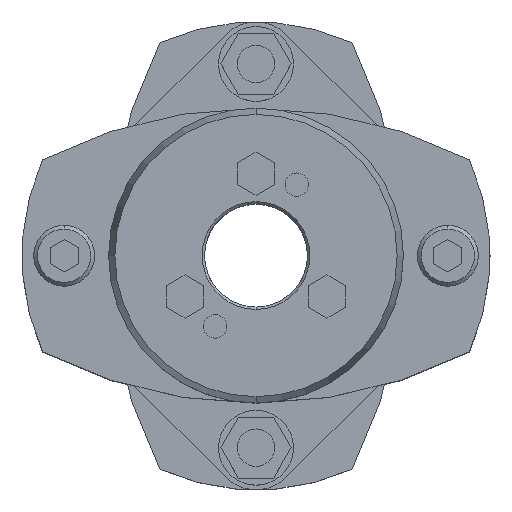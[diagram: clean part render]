
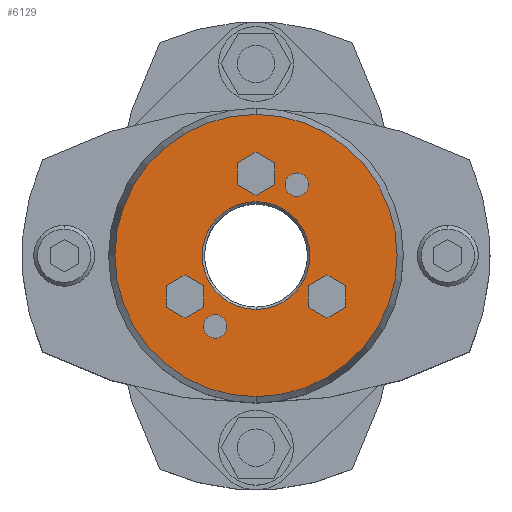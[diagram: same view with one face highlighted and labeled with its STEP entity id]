
A CAD part, top view. The second image highlights one B-rep face of the part: STEP entity #6129.
In plain terms, the highlighted planar face has unit normal (0, 0, 1).
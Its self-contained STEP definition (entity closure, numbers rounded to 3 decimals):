
#1677=CARTESIAN_POINT('',(0.,11.5,55.5));
#1678=VERTEX_POINT('',#1677);
#1694=CARTESIAN_POINT('',(0.,-11.5,55.5));
#1695=VERTEX_POINT('',#1694);
#1702=CARTESIAN_POINT('',(0.,0.,55.5));
#1703=DIRECTION('',(0.0,0.0,1.0));
#1704=DIRECTION('',(0.0,1.0,0.0));
#1705=AXIS2_PLACEMENT_3D('',#1702,#1703,#1704);
#1706=CIRCLE('',#1705,11.5);
#1707=EDGE_CURVE('',#1695,#1678,#1706,.T.);
#1865=CARTESIAN_POINT('',(0.,-30.16,55.5));
#1866=VERTEX_POINT('',#1865);
#1873=CARTESIAN_POINT('',(0.,30.16,55.5));
#1874=VERTEX_POINT('',#1873);
#1875=CARTESIAN_POINT('',(0.,0.,55.5));
#1876=DIRECTION('',(0.0,0.0,-1.0));
#1877=DIRECTION('',(0.0,-1.0,0.0));
#1878=AXIS2_PLACEMENT_3D('',#1875,#1876,#1877);
#1879=CIRCLE('',#1878,30.16);
#1880=EDGE_CURVE('',#1866,#1874,#1879,.T.);
#1975=CARTESIAN_POINT('',(8.75,17.655,55.5));
#1976=VERTEX_POINT('',#1975);
#1992=CARTESIAN_POINT('',(8.75,12.655,55.5));
#1993=VERTEX_POINT('',#1992);
#2000=CARTESIAN_POINT('',(8.75,15.155,55.5));
#2001=DIRECTION('',(0.0,0.0,-1.0));
#2002=DIRECTION('',(0.0,1.0,0.0));
#2003=AXIS2_PLACEMENT_3D('',#2000,#2001,#2002);
#2004=CIRCLE('',#2003,2.5);
#2005=EDGE_CURVE('',#1976,#1993,#2004,.T.);
#2017=CARTESIAN_POINT('',(-8.75,-12.655,55.5));
#2018=VERTEX_POINT('',#2017);
#2034=CARTESIAN_POINT('',(-8.75,-17.655,55.5));
#2035=VERTEX_POINT('',#2034);
#2042=CARTESIAN_POINT('',(-8.75,-15.155,55.5));
#2043=DIRECTION('',(0.0,0.0,-1.0));
#2044=DIRECTION('',(0.0,1.0,0.0));
#2045=AXIS2_PLACEMENT_3D('',#2042,#2043,#2044);
#2046=CIRCLE('',#2045,2.5);
#2047=EDGE_CURVE('',#2018,#2035,#2046,.T.);
#5156=CARTESIAN_POINT('',(-8.75,-15.155,55.5));
#5157=DIRECTION('',(0.0,0.0,-1.0));
#5158=DIRECTION('',(0.0,1.0,0.0));
#5159=AXIS2_PLACEMENT_3D('',#5156,#5157,#5158);
#5160=CIRCLE('',#5159,2.5);
#5161=EDGE_CURVE('',#2035,#2018,#5160,.T.);
#5190=CARTESIAN_POINT('',(8.75,15.155,55.5));
#5191=DIRECTION('',(0.0,0.0,-1.0));
#5192=DIRECTION('',(0.0,1.0,0.0));
#5193=AXIS2_PLACEMENT_3D('',#5190,#5191,#5192);
#5194=CIRCLE('',#5193,2.5);
#5195=EDGE_CURVE('',#1993,#1976,#5194,.T.);
#5233=CARTESIAN_POINT('',(-15.155,-4.131,55.5));
#5234=VERTEX_POINT('',#5233);
#5241=CARTESIAN_POINT('',(-19.155,-6.441,55.5));
#5242=VERTEX_POINT('',#5241);
#5243=CARTESIAN_POINT('',(-19.155,-6.441,55.5));
#5244=DIRECTION('',(0.866,0.5,0.0));
#5245=VECTOR('',#5244,4.619);
#5246=LINE('',#5243,#5245);
#5247=EDGE_CURVE('',#5242,#5234,#5246,.T.);
#5271=CARTESIAN_POINT('',(-11.155,-6.441,55.5));
#5272=VERTEX_POINT('',#5271);
#5279=CARTESIAN_POINT('',(-15.155,-4.131,55.5));
#5280=DIRECTION('',(0.866,-0.5,0.0));
#5281=VECTOR('',#5280,4.619);
#5282=LINE('',#5279,#5281);
#5283=EDGE_CURVE('',#5234,#5272,#5282,.T.);
#5302=CARTESIAN_POINT('',(-11.155,-11.059,55.5));
#5303=VERTEX_POINT('',#5302);
#5310=CARTESIAN_POINT('',(-11.155,-6.441,55.5));
#5311=DIRECTION('',(0.0,-1.0,0.0));
#5312=VECTOR('',#5311,4.619);
#5313=LINE('',#5310,#5312);
#5314=EDGE_CURVE('',#5272,#5303,#5313,.T.);
#5333=CARTESIAN_POINT('',(-15.155,-13.369,55.5));
#5334=VERTEX_POINT('',#5333);
#5341=CARTESIAN_POINT('',(-11.155,-11.059,55.5));
#5342=DIRECTION('',(-0.866,-0.5,0.0));
#5343=VECTOR('',#5342,4.619);
#5344=LINE('',#5341,#5343);
#5345=EDGE_CURVE('',#5303,#5334,#5344,.T.);
#5364=CARTESIAN_POINT('',(-19.155,-11.059,55.5));
#5365=VERTEX_POINT('',#5364);
#5372=CARTESIAN_POINT('',(-15.155,-13.369,55.5));
#5373=DIRECTION('',(-0.866,0.5,0.0));
#5374=VECTOR('',#5373,4.619);
#5375=LINE('',#5372,#5374);
#5376=EDGE_CURVE('',#5334,#5365,#5375,.T.);
#5394=CARTESIAN_POINT('',(-19.155,-11.059,55.5));
#5395=DIRECTION('',(0.0,1.0,0.0));
#5396=VECTOR('',#5395,4.619);
#5397=LINE('',#5394,#5396);
#5398=EDGE_CURVE('',#5365,#5242,#5397,.T.);
#5433=CARTESIAN_POINT('',(0.,22.119,55.5));
#5434=VERTEX_POINT('',#5433);
#5441=CARTESIAN_POINT('',(-4.,19.809,55.5));
#5442=VERTEX_POINT('',#5441);
#5443=CARTESIAN_POINT('',(-4.,19.809,55.5));
#5444=DIRECTION('',(0.866,0.5,0.0));
#5445=VECTOR('',#5444,4.619);
#5446=LINE('',#5443,#5445);
#5447=EDGE_CURVE('',#5442,#5434,#5446,.T.);
#5471=CARTESIAN_POINT('',(4.,19.809,55.5));
#5472=VERTEX_POINT('',#5471);
#5479=CARTESIAN_POINT('',(0.,22.119,55.5));
#5480=DIRECTION('',(0.866,-0.5,0.0));
#5481=VECTOR('',#5480,4.619);
#5482=LINE('',#5479,#5481);
#5483=EDGE_CURVE('',#5434,#5472,#5482,.T.);
#5502=CARTESIAN_POINT('',(4.,15.191,55.5));
#5503=VERTEX_POINT('',#5502);
#5510=CARTESIAN_POINT('',(4.,19.809,55.5));
#5511=DIRECTION('',(0.0,-1.0,0.0));
#5512=VECTOR('',#5511,4.619);
#5513=LINE('',#5510,#5512);
#5514=EDGE_CURVE('',#5472,#5503,#5513,.T.);
#5533=CARTESIAN_POINT('',(0.,12.881,55.5));
#5534=VERTEX_POINT('',#5533);
#5541=CARTESIAN_POINT('',(4.,15.191,55.5));
#5542=DIRECTION('',(-0.866,-0.5,0.0));
#5543=VECTOR('',#5542,4.619);
#5544=LINE('',#5541,#5543);
#5545=EDGE_CURVE('',#5503,#5534,#5544,.T.);
#5564=CARTESIAN_POINT('',(-4.,15.191,55.5));
#5565=VERTEX_POINT('',#5564);
#5572=CARTESIAN_POINT('',(0.,12.881,55.5));
#5573=DIRECTION('',(-0.866,0.5,0.0));
#5574=VECTOR('',#5573,4.619);
#5575=LINE('',#5572,#5574);
#5576=EDGE_CURVE('',#5534,#5565,#5575,.T.);
#5594=CARTESIAN_POINT('',(-4.,15.191,55.5));
#5595=DIRECTION('',(0.0,1.0,0.0));
#5596=VECTOR('',#5595,4.619);
#5597=LINE('',#5594,#5596);
#5598=EDGE_CURVE('',#5565,#5442,#5597,.T.);
#5633=CARTESIAN_POINT('',(15.155,-4.131,55.5));
#5634=VERTEX_POINT('',#5633);
#5641=CARTESIAN_POINT('',(11.155,-6.441,55.5));
#5642=VERTEX_POINT('',#5641);
#5643=CARTESIAN_POINT('',(11.155,-6.441,55.5));
#5644=DIRECTION('',(0.866,0.5,0.0));
#5645=VECTOR('',#5644,4.619);
#5646=LINE('',#5643,#5645);
#5647=EDGE_CURVE('',#5642,#5634,#5646,.T.);
#5671=CARTESIAN_POINT('',(19.155,-6.441,55.5));
#5672=VERTEX_POINT('',#5671);
#5679=CARTESIAN_POINT('',(15.155,-4.131,55.5));
#5680=DIRECTION('',(0.866,-0.5,0.0));
#5681=VECTOR('',#5680,4.619);
#5682=LINE('',#5679,#5681);
#5683=EDGE_CURVE('',#5634,#5672,#5682,.T.);
#5702=CARTESIAN_POINT('',(19.155,-11.059,55.5));
#5703=VERTEX_POINT('',#5702);
#5710=CARTESIAN_POINT('',(19.155,-6.441,55.5));
#5711=DIRECTION('',(0.0,-1.0,0.0));
#5712=VECTOR('',#5711,4.619);
#5713=LINE('',#5710,#5712);
#5714=EDGE_CURVE('',#5672,#5703,#5713,.T.);
#5733=CARTESIAN_POINT('',(15.155,-13.369,55.5));
#5734=VERTEX_POINT('',#5733);
#5741=CARTESIAN_POINT('',(19.155,-11.059,55.5));
#5742=DIRECTION('',(-0.866,-0.5,0.0));
#5743=VECTOR('',#5742,4.619);
#5744=LINE('',#5741,#5743);
#5745=EDGE_CURVE('',#5703,#5734,#5744,.T.);
#5764=CARTESIAN_POINT('',(11.155,-11.059,55.5));
#5765=VERTEX_POINT('',#5764);
#5772=CARTESIAN_POINT('',(15.155,-13.369,55.5));
#5773=DIRECTION('',(-0.866,0.5,0.0));
#5774=VECTOR('',#5773,4.619);
#5775=LINE('',#5772,#5774);
#5776=EDGE_CURVE('',#5734,#5765,#5775,.T.);
#5794=CARTESIAN_POINT('',(11.155,-11.059,55.5));
#5795=DIRECTION('',(0.0,1.0,0.0));
#5796=VECTOR('',#5795,4.619);
#5797=LINE('',#5794,#5796);
#5798=EDGE_CURVE('',#5765,#5642,#5797,.T.);
#6068=CARTESIAN_POINT('',(0.,0.,55.5));
#6069=DIRECTION('',(0.0,0.0,-1.0));
#6070=DIRECTION('',(0.0,-1.0,0.0));
#6071=AXIS2_PLACEMENT_3D('',#6068,#6069,#6070);
#6072=CIRCLE('',#6071,30.16);
#6073=EDGE_CURVE('',#1874,#1866,#6072,.T.);
#6078=CARTESIAN_POINT('',(0.,2.864,55.5));
#6079=DIRECTION('',(0.0,0.0,1.0));
#6080=DIRECTION('',(0.0,1.0,0.0));
#6081=AXIS2_PLACEMENT_3D('',#6078,#6079,#6080);
#6082=PLANE('',#6081);
#6083=ORIENTED_EDGE('',*,*,#6073,.F.);
#6084=ORIENTED_EDGE('',*,*,#1880,.F.);
#6085=EDGE_LOOP('',(#6083,#6084));
#6086=FACE_OUTER_BOUND('',#6085,.T.);
#6087=ORIENTED_EDGE('',*,*,#2047,.T.);
#6088=ORIENTED_EDGE('',*,*,#5161,.T.);
#6089=EDGE_LOOP('',(#6087,#6088));
#6090=FACE_BOUND('',#6089,.T.);
#6091=ORIENTED_EDGE('',*,*,#2005,.T.);
#6092=ORIENTED_EDGE('',*,*,#5195,.T.);
#6093=EDGE_LOOP('',(#6091,#6092));
#6094=FACE_BOUND('',#6093,.T.);
#6095=ORIENTED_EDGE('',*,*,#5247,.T.);
#6096=ORIENTED_EDGE('',*,*,#5283,.T.);
#6097=ORIENTED_EDGE('',*,*,#5314,.T.);
#6098=ORIENTED_EDGE('',*,*,#5345,.T.);
#6099=ORIENTED_EDGE('',*,*,#5376,.T.);
#6100=ORIENTED_EDGE('',*,*,#5398,.T.);
#6101=EDGE_LOOP('',(#6095,#6096,#6097,#6098,#6099,#6100));
#6102=FACE_BOUND('',#6101,.T.);
#6103=ORIENTED_EDGE('',*,*,#5447,.T.);
#6104=ORIENTED_EDGE('',*,*,#5483,.T.);
#6105=ORIENTED_EDGE('',*,*,#5514,.T.);
#6106=ORIENTED_EDGE('',*,*,#5545,.T.);
#6107=ORIENTED_EDGE('',*,*,#5576,.T.);
#6108=ORIENTED_EDGE('',*,*,#5598,.T.);
#6109=EDGE_LOOP('',(#6103,#6104,#6105,#6106,#6107,#6108));
#6110=FACE_BOUND('',#6109,.T.);
#6111=ORIENTED_EDGE('',*,*,#5647,.T.);
#6112=ORIENTED_EDGE('',*,*,#5683,.T.);
#6113=ORIENTED_EDGE('',*,*,#5714,.T.);
#6114=ORIENTED_EDGE('',*,*,#5745,.T.);
#6115=ORIENTED_EDGE('',*,*,#5776,.T.);
#6116=ORIENTED_EDGE('',*,*,#5798,.T.);
#6117=EDGE_LOOP('',(#6111,#6112,#6113,#6114,#6115,#6116));
#6118=FACE_BOUND('',#6117,.T.);
#6119=ORIENTED_EDGE('',*,*,#1707,.F.);
#6120=CARTESIAN_POINT('',(0.,0.,55.5));
#6121=DIRECTION('',(0.0,0.0,1.0));
#6122=DIRECTION('',(0.0,1.0,0.0));
#6123=AXIS2_PLACEMENT_3D('',#6120,#6121,#6122);
#6124=CIRCLE('',#6123,11.5);
#6125=EDGE_CURVE('',#1678,#1695,#6124,.T.);
#6126=ORIENTED_EDGE('',*,*,#6125,.F.);
#6127=EDGE_LOOP('',(#6119,#6126));
#6128=FACE_BOUND('',#6127,.T.);
#6129=ADVANCED_FACE('',(#6086,#6090,#6094,#6102,#6110,#6118,#6128),#6082,.T.);
